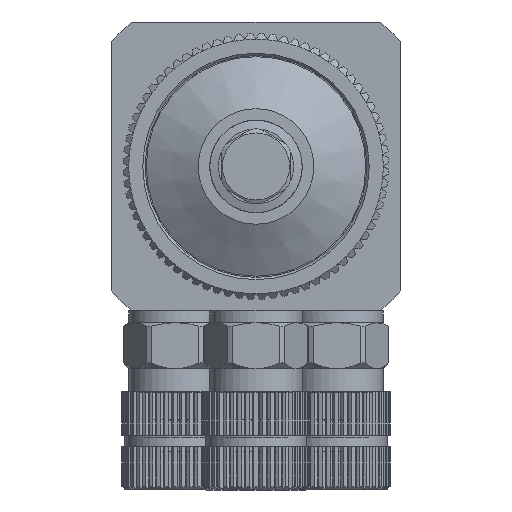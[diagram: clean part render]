
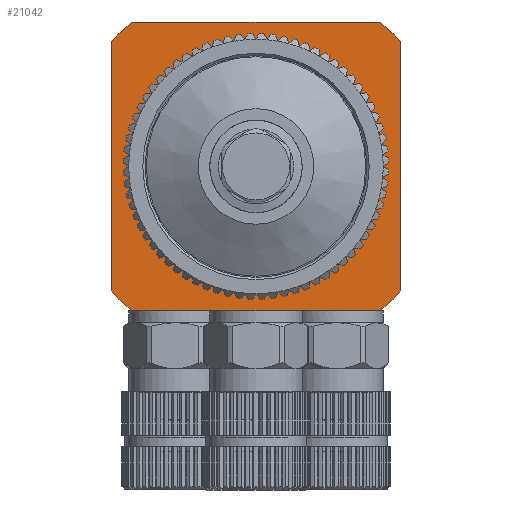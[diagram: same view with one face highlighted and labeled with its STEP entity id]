
A CAD part, front view. The second image highlights one B-rep face of the part: STEP entity #21042.
In plain terms, the highlighted planar face has unit normal (0, -1, 0).
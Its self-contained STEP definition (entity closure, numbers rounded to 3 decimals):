
#58 = CIRCLE ( 'NONE', #3787, 16.5 ) ;
#88 = DIRECTION ( 'NONE',  ( 0., 0., -1. ) ) ;
#1333 = VECTOR ( 'NONE', #23456, 1000. ) ;
#2138 = CARTESIAN_POINT ( 'NONE',  ( 37.77, 230., -12.5 ) ) ;
#3137 = ORIENTED_EDGE ( 'NONE', *, *, #16910, .T. ) ;
#3559 = AXIS2_PLACEMENT_3D ( 'NONE', #31278, #49124, #44718 ) ;
#3787 = AXIS2_PLACEMENT_3D ( 'NONE', #43681, #48369, #16700 ) ;
#4013 = PLANE ( 'NONE',  #47705 ) ;
#4409 = ORIENTED_EDGE ( 'NONE', *, *, #36100, .F. ) ;
#5866 = CARTESIAN_POINT ( 'NONE',  ( 39.5, 230., 12.5 ) ) ;
#6106 = CARTESIAN_POINT ( 'NONE',  ( 14.5, 230., 12.5 ) ) ;
#6647 = CARTESIAN_POINT ( 'NONE',  ( 39.5, 230., 10.77 ) ) ;
#6766 = DIRECTION ( 'NONE',  ( 0., -1., 0. ) ) ;
#8402 = CARTESIAN_POINT ( 'NONE',  ( 14.5, 230., 12.5 ) ) ;
#9352 = CIRCLE ( 'NONE', #53353, 16.5 ) ;
#9548 = DIRECTION ( 'NONE',  ( 0., 0., -1. ) ) ;
#10941 = CARTESIAN_POINT ( 'NONE',  ( 37.77, 230., 12.5 ) ) ;
#12303 = CARTESIAN_POINT ( 'NONE',  ( 27., 230., 0. ) ) ;
#13558 = CARTESIAN_POINT ( 'NONE',  ( 14.5, 230., 10.77 ) ) ;
#13763 = LINE ( 'NONE', #6106, #1333 ) ;
#15862 = EDGE_LOOP ( 'NONE', ( #3137, #44727, #53043, #40153, #4409, #38082, #43774, #39781, #40449 ) ) ;
#16700 = DIRECTION ( 'NONE',  ( 0., 0., 1. ) ) ;
#16910 = EDGE_CURVE ( 'NONE', #25193, #54456, #46856, .T. ) ;
#18070 = LINE ( 'NONE', #8402, #26462 ) ;
#19343 = LINE ( 'NONE', #5866, #37614 ) ;
#20932 = VERTEX_POINT ( 'NONE', #38797 ) ;
#21042 = ADVANCED_FACE ( 'NONE', ( #35987, #44757 ), #4013, .T. ) ;
#22205 = DIRECTION ( 'NONE',  ( 0., -1., 0. ) ) ;
#23456 = DIRECTION ( 'NONE',  ( 1., 0., 0. ) ) ;
#24024 = VERTEX_POINT ( 'NONE', #41822 ) ;
#24346 = AXIS2_PLACEMENT_3D ( 'NONE', #12303, #51621, #52199 ) ;
#25193 = VERTEX_POINT ( 'NONE', #28130 ) ;
#25419 = EDGE_CURVE ( 'NONE', #51389, #42714, #18070, .T. ) ;
#25503 = ORIENTED_EDGE ( 'NONE', *, *, #46390, .T. ) ;
#26326 = DIRECTION ( 'NONE',  ( 0., 0., 1. ) ) ;
#26462 = VECTOR ( 'NONE', #26326, 1000. ) ;
#27965 = CIRCLE ( 'NONE', #3559, 10.5 ) ;
#28130 = CARTESIAN_POINT ( 'NONE',  ( 27., 230., -12.5 ) ) ;
#28179 = EDGE_CURVE ( 'NONE', #51389, #24024, #32639, .T. ) ;
#30649 = DIRECTION ( 'NONE',  ( 0., 0., 1. ) ) ;
#31270 = EDGE_CURVE ( 'NONE', #43009, #54456, #9352, .T. ) ;
#31278 = CARTESIAN_POINT ( 'NONE',  ( 27., 230., 0. ) ) ;
#32635 = DIRECTION ( 'NONE',  ( 1., 0., 0. ) ) ;
#32639 = CIRCLE ( 'NONE', #41983, 16.5 ) ;
#34274 = DIRECTION ( 'NONE',  ( 1., 0., 0. ) ) ;
#34350 = CARTESIAN_POINT ( 'NONE',  ( 27., 230., 0. ) ) ;
#35325 = VERTEX_POINT ( 'NONE', #6647 ) ;
#35987 = FACE_BOUND ( 'NONE', #36323, .T. ) ;
#36100 = EDGE_CURVE ( 'NONE', #36227, #49626, #13763, .T. ) ;
#36227 = VERTEX_POINT ( 'NONE', #50975 ) ;
#36323 = EDGE_LOOP ( 'NONE', ( #25503 ) ) ;
#37614 = VECTOR ( 'NONE', #88, 1000. ) ;
#38082 = ORIENTED_EDGE ( 'NONE', *, *, #57289, .T. ) ;
#38181 = VECTOR ( 'NONE', #34274, 1000. ) ;
#38575 = EDGE_CURVE ( 'NONE', #24024, #25193, #50194, .T. ) ;
#38797 = CARTESIAN_POINT ( 'NONE',  ( 27., 230., 10.5 ) ) ;
#39781 = ORIENTED_EDGE ( 'NONE', *, *, #28179, .T. ) ;
#40153 = ORIENTED_EDGE ( 'NONE', *, *, #56171, .T. ) ;
#40446 = CARTESIAN_POINT ( 'NONE',  ( 39.5, 230., -10.77 ) ) ;
#40449 = ORIENTED_EDGE ( 'NONE', *, *, #38575, .T. ) ;
#41822 = CARTESIAN_POINT ( 'NONE',  ( 16.23, 230., -12.5 ) ) ;
#41983 = AXIS2_PLACEMENT_3D ( 'NONE', #34350, #6766, #42534 ) ;
#42534 = DIRECTION ( 'NONE',  ( 0., 0., 1. ) ) ;
#42714 = VERTEX_POINT ( 'NONE', #13558 ) ;
#42939 = DIRECTION ( 'NONE',  ( 0., 1., 0. ) ) ;
#43009 = VERTEX_POINT ( 'NONE', #40446 ) ;
#43548 = VECTOR ( 'NONE', #32635, 1000. ) ;
#43681 = CARTESIAN_POINT ( 'NONE',  ( 27., 230., 0. ) ) ;
#43774 = ORIENTED_EDGE ( 'NONE', *, *, #25419, .F. ) ;
#44718 = DIRECTION ( 'NONE',  ( 0., 0., 1. ) ) ;
#44727 = ORIENTED_EDGE ( 'NONE', *, *, #31270, .F. ) ;
#44757 = FACE_OUTER_BOUND ( 'NONE', #15862, .T. ) ;
#44932 = CIRCLE ( 'NONE', #24346, 16.5 ) ;
#46390 = EDGE_CURVE ( 'NONE', #20932, #20932, #27965, .T. ) ;
#46856 = LINE ( 'NONE', #55921, #38181 ) ;
#47705 = AXIS2_PLACEMENT_3D ( 'NONE', #49447, #22205, #9548 ) ;
#48369 = DIRECTION ( 'NONE',  ( 0., -1., 0. ) ) ;
#49124 = DIRECTION ( 'NONE',  ( 0., 1., 0. ) ) ;
#49447 = CARTESIAN_POINT ( 'NONE',  ( 39.5, 230., 12.5 ) ) ;
#49626 = VERTEX_POINT ( 'NONE', #10941 ) ;
#49910 = EDGE_CURVE ( 'NONE', #35325, #43009, #19343, .T. ) ;
#50194 = LINE ( 'NONE', #54305, #43548 ) ;
#50975 = CARTESIAN_POINT ( 'NONE',  ( 16.23, 230., 12.5 ) ) ;
#51389 = VERTEX_POINT ( 'NONE', #56907 ) ;
#51621 = DIRECTION ( 'NONE',  ( 0., -1., 0. ) ) ;
#52199 = DIRECTION ( 'NONE',  ( 0., 0., 1. ) ) ;
#52323 = CARTESIAN_POINT ( 'NONE',  ( 27., 230., 0. ) ) ;
#53043 = ORIENTED_EDGE ( 'NONE', *, *, #49910, .F. ) ;
#53353 = AXIS2_PLACEMENT_3D ( 'NONE', #52323, #42939, #30649 ) ;
#54305 = CARTESIAN_POINT ( 'NONE',  ( 27., 230., -12.5 ) ) ;
#54456 = VERTEX_POINT ( 'NONE', #2138 ) ;
#55921 = CARTESIAN_POINT ( 'NONE',  ( 27., 230., -12.5 ) ) ;
#56171 = EDGE_CURVE ( 'NONE', #35325, #49626, #44932, .T. ) ;
#56907 = CARTESIAN_POINT ( 'NONE',  ( 14.5, 230., -10.77 ) ) ;
#57289 = EDGE_CURVE ( 'NONE', #36227, #42714, #58, .T. ) ;
